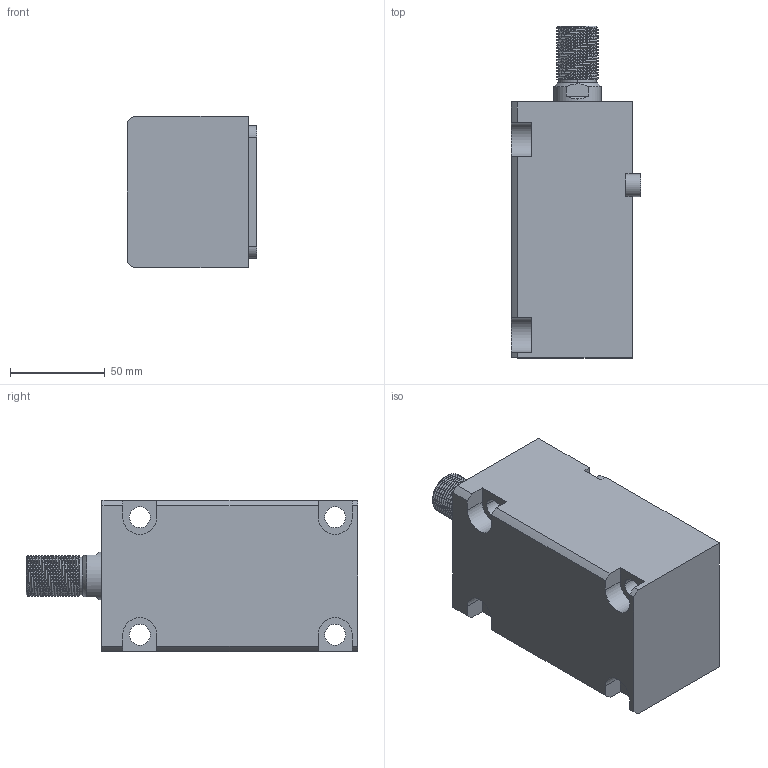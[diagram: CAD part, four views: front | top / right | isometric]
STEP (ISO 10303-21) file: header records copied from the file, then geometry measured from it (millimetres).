
FILE_DESCRIPTION (( 'STEP AP214' ), '1' );
FILE_NAME ('chtb-lam40x80w_asm.STEP', '2018-05-30T03:02:00', ( 'Windows' ), ( 'Microsoft' ), 'SwSTEP 2.0', 'SolidWorks 2015', '' );
FILE_SCHEMA (( 'AUTOMOTIVE_DESIGN' ));
Length unit declared in the file: millimetre
Products named in the file (5): CHTB-SD40X80WHSG; CHTB-SD40QG; CHTB-LAM40X80NBT; CHTB-LA40PJ; chtb-lam40x80w_asm
Assembly tree (4 placements, depth 2):
  chtb-lam40x80w_asm
    CHTB-LA40PJ
    CHTB-LAM40X80NBT
    CHTB-SD40QG
    CHTB-SD40X80WHSG
Bounding box: 68.5 x 175 x 80 mm (x, y, z)
Volume: 609656.2 mm3; surface area: 106111.8 mm2
Topology: 4 solids, 5 shells, 199 faces, 547 edges, 365 vertices
Faces by surface type: cylinder 111, plane 50, bspline 16, torus 12, cone 10
Entity records: 13609 total; most frequent: CARTESIAN_POINT 8674, ORIENTED_EDGE 1082, DIRECTION 894, EDGE_CURVE 541, VERTEX_POINT 365, AXIS2_PLACEMENT_3D 349, EDGE_LOOP 226, ADVANCED_FACE 199
